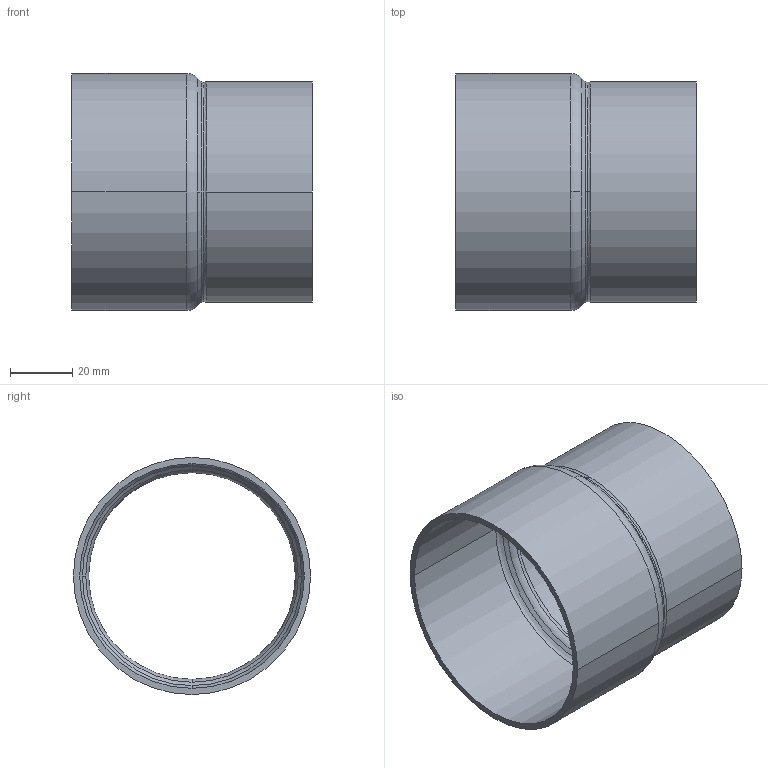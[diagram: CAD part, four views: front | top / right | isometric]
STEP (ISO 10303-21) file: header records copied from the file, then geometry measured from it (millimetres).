
FILE_DESCRIPTION((''),'2;1');
FILE_NAME('G:\Technics\CAD\Bauteile\Serie 15243\152437667.stp','2005-10-21T12:49:52',('boden'),(''),'Autodesk Inventor 8','Autodesk Inventor 8','');
FILE_SCHEMA(('AUTOMOTIVE_DESIGN { 1 0 10303 214 1 1 1 1 }'));
Length unit declared in the file: millimetre
Products named in the file (1): 152437667
Bounding box: 77.2 x 76.1 x 76.1 mm (x, y, z)
Volume: 35153.1 mm3; surface area: 36053.7 mm2
Topology: 1 solids, 1 shells, 26 faces, 68 edges, 44 vertices
Faces by surface type: cylinder 8, torus 6, bspline 6, cone 4, plane 2
Entity records: 1103 total; most frequent: CARTESIAN_POINT 403, DIRECTION 166, ORIENTED_EDGE 136, AXIS2_PLACEMENT_3D 77, EDGE_CURVE 68, CIRCLE 56, VERTEX_POINT 44, EDGE_LOOP 28
